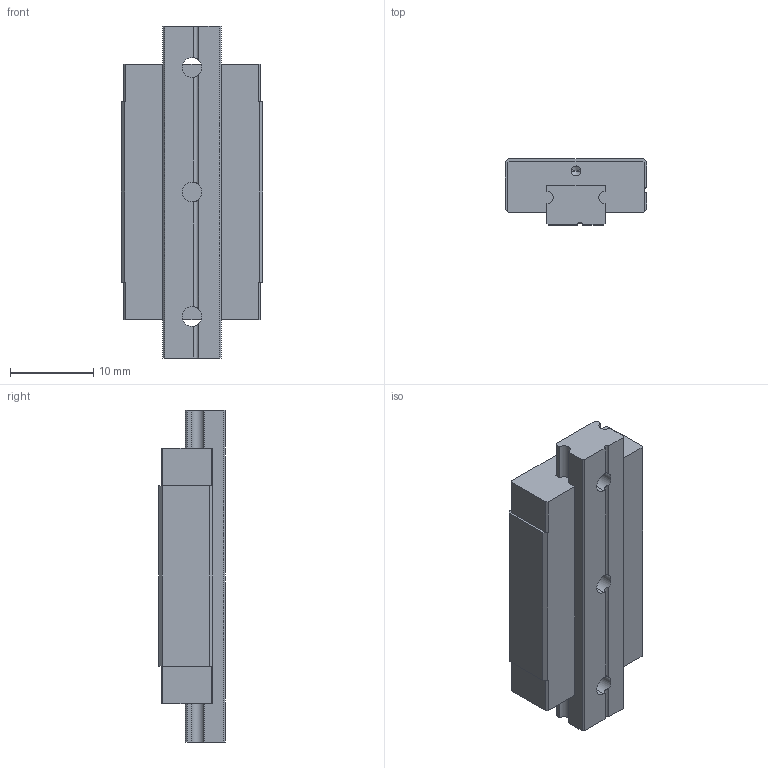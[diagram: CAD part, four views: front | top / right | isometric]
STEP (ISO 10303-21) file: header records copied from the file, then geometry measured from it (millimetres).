
FILE_DESCRIPTION((''),'2;1');
FILE_NAME('MGN7H_ASM_ASM','2008-07-11T',('minyao'),(''),'PRO/ENGINEER BY PARAMETRIC TECHNOLOGY CORPORATION, 2004360','PRO/ENGINEER BY PARAMETRIC TECHNOLOGY CORPORATION, 2004360','');
FILE_SCHEMA(('CONFIG_CONTROL_DESIGN'));
Length unit declared in the file: millimetre
Products named in the file (5): MANIFOLD_SOLID_BREP_80; MANIFOLD_SOLID_BREP_81; SAND94F7H8SD_ASM_ASM; ASM0001_ASM; MGN7H_ASM_ASM
Assembly tree (4 placements, depth 4):
  MGN7H_ASM_ASM
    ASM0001_ASM
      SAND94F7H8SD_ASM_ASM
        MANIFOLD_SOLID_BREP_80
        MANIFOLD_SOLID_BREP_81
Bounding box: 17 x 8 x 40 mm (x, y, z)
Volume: 3744.9 mm3; surface area: 3141.8 mm2
Topology: 2 solids, 2 shells, 96 faces, 277 edges, 179 vertices
Faces by surface type: plane 51, cylinder 33, cone 12
Entity records: 3359 total; most frequent: CARTESIAN_POINT 672, DIRECTION 554, ORIENTED_EDGE 530, EDGE_CURVE 265, AXIS2_PLACEMENT_3D 187, VECTOR 180, LINE 180, VERTEX_POINT 179
